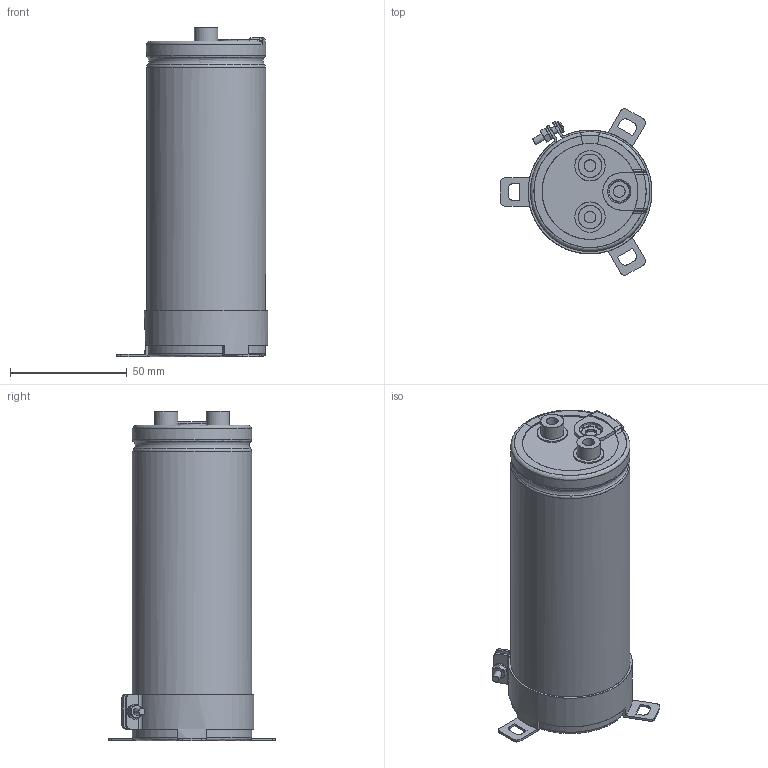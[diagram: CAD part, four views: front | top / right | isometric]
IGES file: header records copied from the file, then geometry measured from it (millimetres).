
Start section: JAMA-IS VERSION  1.0
Bounding box: 65 x 71.22 x 141 mm (x, y, z)
Surface area: 79101.3 mm2 (no closed solid volume)
Topology: 0 solids, 0 shells, 298 faces, 4625 edges, 4595 vertices
Faces by surface type: bspline 298
